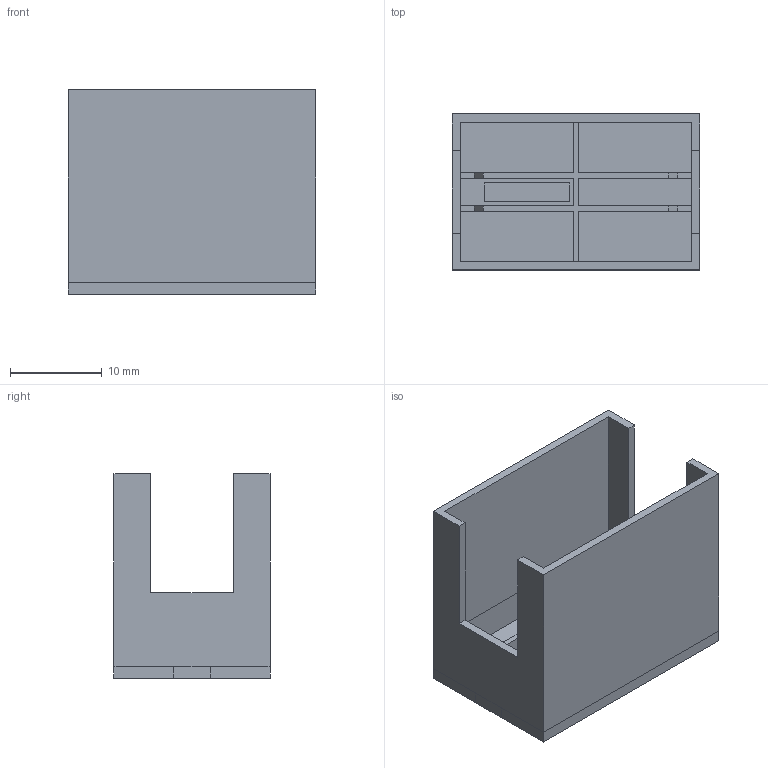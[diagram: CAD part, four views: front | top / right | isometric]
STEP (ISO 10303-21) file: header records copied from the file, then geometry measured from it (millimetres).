
FILE_DESCRIPTION(('FreeCAD Model'),'2;1');
FILE_NAME('Open CASCADE Shape Model','2025-03-09T17:51:17',(''),(''), 'Open CASCADE STEP processor 7.8','FreeCAD','Unknown');
FILE_SCHEMA(('AUTOMOTIVE_DESIGN { 1 0 10303 214 1 1 1 1 }'));
Length unit declared in the file: millimetre
Products named in the file (4): Buffer; Body; Fahrstrasse; Ausleuchtung
Assembly tree (3 placements, depth 2):
  Buffer
    Body
    Fahrstrasse
    Ausleuchtung
Bounding box: 27 x 17 x 22.3 mm (x, y, z)
Volume: 2472.8 mm3; surface area: 4883.2 mm2
Topology: 3 solids, 3 shells, 101 faces, 259 edges, 164 vertices
Faces by surface type: plane 101
Entity records: 3066 total; most frequent: CARTESIAN_POINT 528, ORIENTED_EDGE 518, DIRECTION 469, EDGE_CURVE 259, LINE 259, VECTOR 259, VERTEX_POINT 164, AXIS2_PLACEMENT_3D 105
